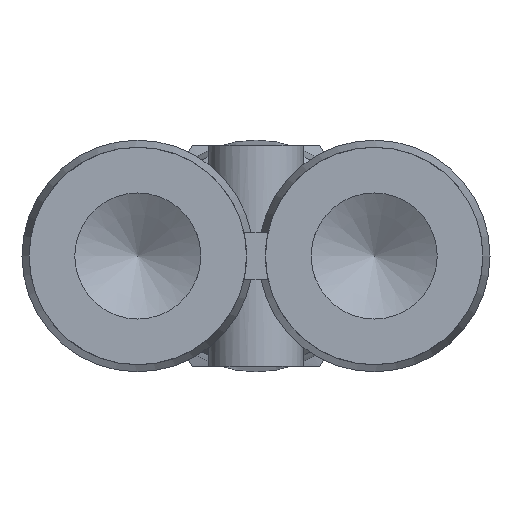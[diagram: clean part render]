
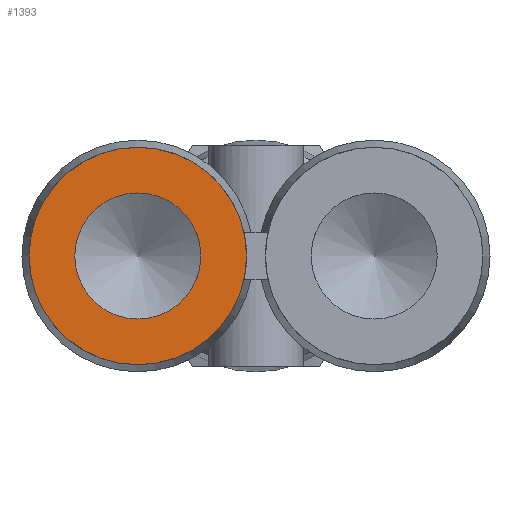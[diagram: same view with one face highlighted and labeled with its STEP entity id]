
A CAD part, front view. The second image highlights one B-rep face of the part: STEP entity #1393.
In plain terms, the highlighted planar face has unit normal (0, -1, 0).
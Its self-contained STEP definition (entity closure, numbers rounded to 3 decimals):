
#116=FACE_BOUND('',#271,.T.);
#135=PLANE('',#1550);
#188=FACE_OUTER_BOUND('',#270,.T.);
#270=EDGE_LOOP('',(#1116,#1117));
#271=EDGE_LOOP('',(#1118,#1119));
#460=CIRCLE('',#1533,4.);
#461=CIRCLE('',#1534,4.);
#468=CIRCLE('',#1546,6.9);
#471=CIRCLE('',#1549,6.9);
#599=VERTEX_POINT('',#2622);
#600=VERTEX_POINT('',#2623);
#608=VERTEX_POINT('',#2673);
#609=VERTEX_POINT('',#2674);
#781=EDGE_CURVE('',#599,#600,#460,.T.);
#782=EDGE_CURVE('',#600,#599,#461,.T.);
#796=EDGE_CURVE('',#608,#609,#468,.T.);
#800=EDGE_CURVE('',#609,#608,#471,.T.);
#1116=ORIENTED_EDGE('',*,*,#796,.F.);
#1117=ORIENTED_EDGE('',*,*,#800,.F.);
#1118=ORIENTED_EDGE('',*,*,#781,.T.);
#1119=ORIENTED_EDGE('',*,*,#782,.T.);
#1393=ADVANCED_FACE('',(#188,#116),#135,.F.);
#1533=AXIS2_PLACEMENT_3D('',#2624,#1818,#1819);
#1534=AXIS2_PLACEMENT_3D('',#2625,#1820,#1821);
#1546=AXIS2_PLACEMENT_3D('',#2675,#1849,#1850);
#1549=AXIS2_PLACEMENT_3D('',#2681,#1856,#1857);
#1550=AXIS2_PLACEMENT_3D('',#2682,#1858,#1859);
#1818=DIRECTION('center_axis',(0.,1.,0.));
#1819=DIRECTION('ref_axis',(1.,0.,0.));
#1820=DIRECTION('center_axis',(0.,1.,0.));
#1821=DIRECTION('ref_axis',(1.,0.,0.));
#1849=DIRECTION('center_axis',(0.,1.,0.));
#1850=DIRECTION('ref_axis',(-1.,0.,0.));
#1856=DIRECTION('center_axis',(0.,1.,0.));
#1857=DIRECTION('ref_axis',(-1.,0.,0.));
#1858=DIRECTION('center_axis',(0.,1.,0.));
#1859=DIRECTION('ref_axis',(0.,0.,-1.));
#2622=CARTESIAN_POINT('',(-3.5,-18.3,0.));
#2623=CARTESIAN_POINT('',(-11.5,-18.3,0.));
#2624=CARTESIAN_POINT('Origin',(-7.5,-18.3,0.));
#2625=CARTESIAN_POINT('Origin',(-7.5,-18.3,0.));
#2673=CARTESIAN_POINT('',(-14.4,-18.3,0.));
#2674=CARTESIAN_POINT('',(-0.6,-18.3,0.));
#2675=CARTESIAN_POINT('Origin',(-7.5,-18.3,0.));
#2681=CARTESIAN_POINT('Origin',(-7.5,-18.3,0.));
#2682=CARTESIAN_POINT('Origin',(-7.5,-18.3,0.));
